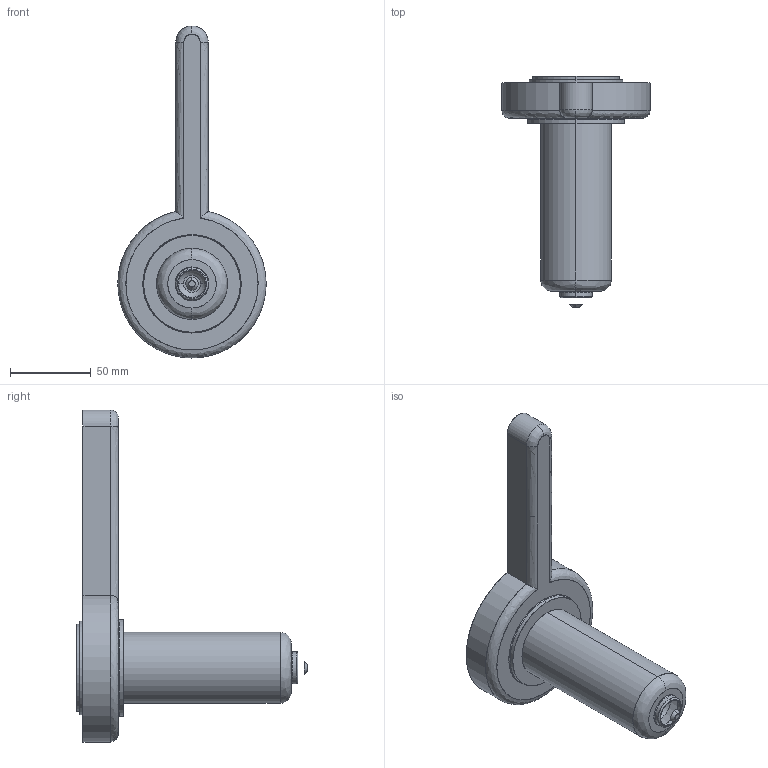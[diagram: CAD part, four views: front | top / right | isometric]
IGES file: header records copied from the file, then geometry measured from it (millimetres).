
Start section: SolidWorks IGES file using analytic representation for surfaces
Global section: file name: C:\Documents and Settings\ws-20\Desktop\TEM\Sede UGEP6005-S-A C-114 L-141 Ød-4.0.IGS; native system: SolidWorks 2012; preprocessor: SolidWorks 2012; author: ws-20; date: 120427.103213; units: millimetre
Bounding box: 91.99 x 143.29 x 206 mm (x, y, z)
Surface area: 43385.9 mm2 (no closed solid volume)
Topology: 0 solids, 0 shells, 44 faces, 984 edges, 984 vertices
Faces by surface type: revolution 27, bspline 17
